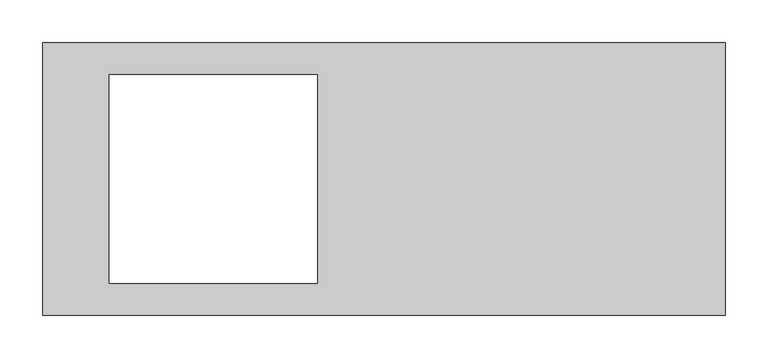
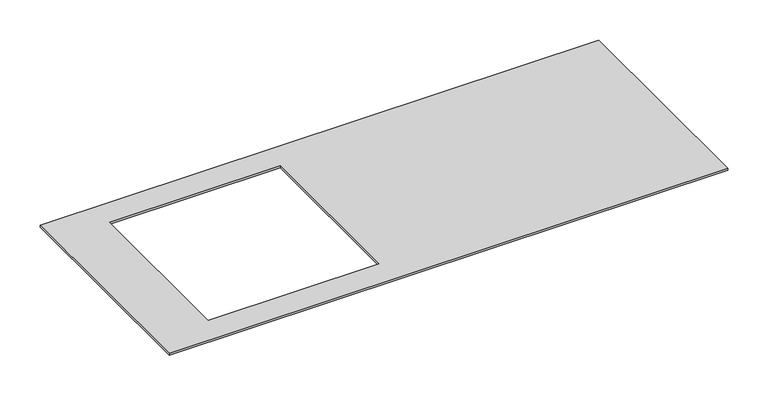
"""IFC4 building model written with IfcOpenShell, lengths in millimetres: proxy geometry, Electrical_Installation_Hager_Cover-Q12-BKA : Electrical_Installation_Hager_Cover-Q12-BKA."""

from ifc_helpers import new_model, si_unit, frame, origin, place, context, project, spatial, polyline, outline, extrude, source, transform, mapped, element, save


def electrical_fixtures_5c7b8e8e(model_context):
    return source(origin(), model_context, "Body", "SweptSolid", [
        extrude(outline(polyline([(800.0, 159.75), (800.0, -159.75), (0.0, -159.75), (0.0, 159.75), (800.0, 159.75)]), holes=[polyline([(322.0, 122.0), (78.0, 122.0), (78.0, -122.0), (322.0, -122.0), (322.0, 122.0)])]), frame((0.0, 0.0, 10.0), z_axis=(0.0, 0.0, 1.0), x_axis=(1.0, 0.0, 0.0)), (0.0, 0.0, 1.0), 3.0),
    ])


if __name__ == "__main__":
    model = new_model("IFC4")
    model_context = context("Model", 3, world=origin())
    ifc_project = project(units=[si_unit("LENGTHUNIT", "METRE", prefix="MILLI")], contexts=[model_context])
    site = spatial("IfcSite", under=ifc_project)
    building = spatial("IfcBuilding", under=site)
    placement = place(None, origin())
    electrical_fixtures_shape = electrical_fixtures_5c7b8e8e(model_context)
    element("IfcBuildingElementProxy", 1, Name="Electrical_Installation_Hager_Cover-Q12-BKA : Electrical_Installation_Hager_Cover-Q12-BKA", ObjectType="Electrical_Installation_Hager_Cover-Q12-BKA : Electrical_Installation_Hager_Cover-Q12-BKA", at=placement, inside=building, context=model_context, shape_type="MappedRepresentation", body=[
        mapped(electrical_fixtures_shape, transform((0.0, 0.0, 0.0), x_axis=(1.0, 0.0, 0.0), y_axis=(0.0, 1.0, 0.0), z_axis=(0.0, 0.0, 1.0))),
    ])
    save(model, "model.ifc")
